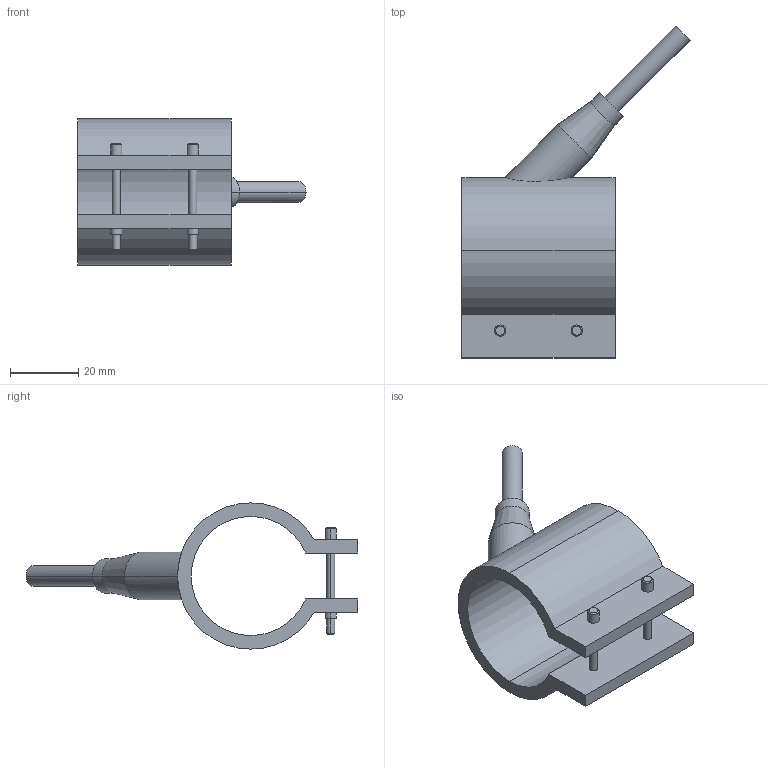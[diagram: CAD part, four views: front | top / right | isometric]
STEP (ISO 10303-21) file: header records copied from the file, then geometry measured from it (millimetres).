
FILE_DESCRIPTION(('CATIA V5 STEP Exchange'),'2;1');
FILE_NAME('C:\Users\Utente\Desktop\IO LAVORO\3D X SITO CF\X SITO\PLASTICA\RF1\29035045.stp','2021-03-27T08:59:10+00:00',('none'),('none'),'CATIA Version 5 Release 20 GA (IN-10)','CATIA V5 STEP AP203','none');
FILE_SCHEMA(('CONFIG_CONTROL_DESIGN'));
Length unit declared in the file: millimetre
Products named in the file (1): 29035045
Bounding box: 67.05 x 97.55 x 43 mm (x, y, z)
Volume: 28922.5 mm3; surface area: 15376.9 mm2
Topology: 1 solids, 1 shells, 54 faces, 123 edges, 79 vertices
Faces by surface type: cylinder 28, plane 16, cone 10
Entity records: 1752 total; most frequent: CARTESIAN_POINT 520, ORIENTED_EDGE 246, DIRECTION 213, EDGE_CURVE 123, AXIS2_PLACEMENT_3D 106, VERTEX_POINT 79, EDGE_LOOP 66, VECTOR 56
